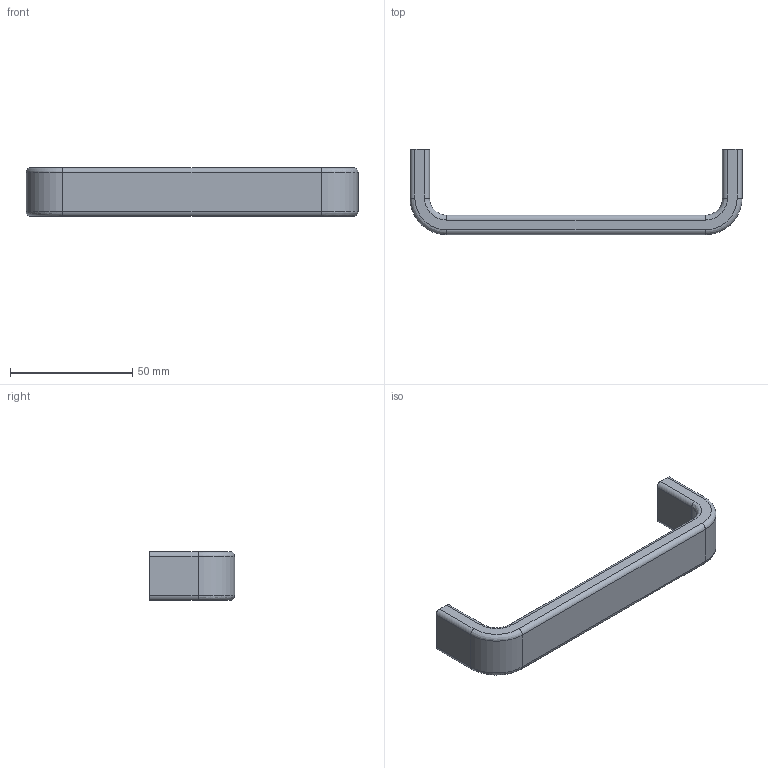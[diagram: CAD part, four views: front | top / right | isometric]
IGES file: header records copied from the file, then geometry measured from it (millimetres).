
Start section: Data from Parasolid IGES Translator 15.0.47, Copyright(c) 2006 Siemens P LM Software. All Rights Reserved.
Global section: file name:  115147.igs; native system:  By UGS Corp.; preprocessor: XPlus GENERIC/IGES 3.0; author: Noname; organization: Noname; date: 20140122.160057; units: millimetre
Bounding box: 136 x 35 x 20 mm (x, y, z)
Surface area: 10118.5 mm2 (no closed solid volume)
Topology: 0 solids, 0 shells, 38 faces, 172 edges, 170 vertices
Faces by surface type: revolution 26, extrusion 12
